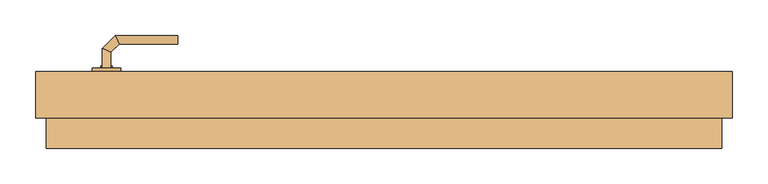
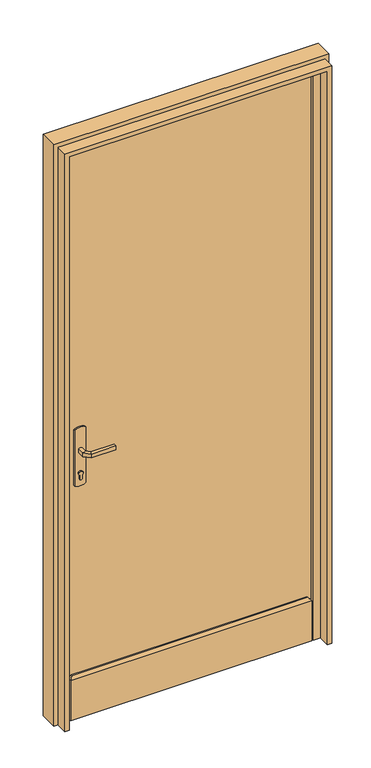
"""IFC4 building model written with IfcOpenShell, lengths in millimetres: door geometry, Entrée (avec angle d'ouverture) : PP Lisse (0.90 m x 2.15 m)."""

from ifc_helpers import new_model, si_unit, point, frame, frame_2d, origin, origin_with_axes, place, context, project, spatial, polyline, circle_curve, ellipse_curve, trimmed, segment, composite_curve, outline, extrude, faceted_brep, source, transform, mapped, element, save
from ifc_brep_helpers import plane_surface, cylinder_surface, advanced_brep


def door_d4e09bec(model_context):
    return source(origin(), model_context, "Body", "SolidModel", [
        extrude(outline(composite_curve([segment(trimmed(circle_curve(frame_2d((904.6410162, -400.0)), 40.0), [point((870.0, -420.0))], [point((870.0, -380.0))], False, "CARTESIAN"), True, "CONTINUOUS"), segment(polyline([(870.0, -380.0), (1080.0, -380.0)]), True, "CONTINUOUS"), segment(trimmed(circle_curve(frame_2d((1045.3589838, -400.0)), 40.0), [point((1080.0, -380.0))], [point((1080.0, -420.0))], False, "CARTESIAN"), True, "CONTINUOUS"), segment(polyline([(1080.0, -420.0), (870.0, -420.0)]), True, "CONTINUOUS")], self_intersect=False)), frame((0.0, 108.0, 0.0), z_axis=(0.0, 1.0, 0.0), x_axis=(0.0, 0.0, 1.0)), (0.0, 0.0, 1.0), 5.0),
        extrude(outline(composite_curve([segment(trimmed(circle_curve(frame_2d((1045.3589838, -400.0)), 40.0), [point((1080.0, -380.0))], [point((1080.0, -420.0))], False, "CARTESIAN"), True, "CONTINUOUS"), segment(polyline([(1080.0, -420.0), (870.0, -420.0)]), True, "CONTINUOUS"), segment(trimmed(circle_curve(frame_2d((904.6410162, -400.0)), 40.0), [point((870.0, -420.0))], [point((870.0, -380.0))], False, "CARTESIAN"), True, "CONTINUOUS"), segment(polyline([(870.0, -380.0), (1080.0, -380.0)]), True, "CONTINUOUS")], self_intersect=False)), frame((0.0, 53.0, 0.0), z_axis=(0.0, 1.0, 0.0), x_axis=(0.0, 0.0, 1.0)), (0.0, 0.0, 1.0), 5.0),
        advanced_brep(
        [(-406.0, 113.0, 1007.0), (-406.0, 113.0, 993.0), (-394.0, 113.0, 993.0), (-394.0, 113.0, 1007.0), (-394.0, 135.680388, 1007.0), (-406.0, 140.6509507, 1007.0), (-394.0, 135.680388, 993.0), (-406.0, 140.6509507, 993.0), (-382.6522273, 147.0281607, 1007.0), (-387.62279, 159.0281607, 1007.0), (-382.6522273, 147.0281607, 993.0), (-387.62279, 159.0281607, 993.0), (-299.9813594, 159.0281607, 1007.0), (-299.9813594, 147.0281607, 1007.0), (-299.9813594, 147.0281607, 993.0), (-299.9813594, 159.0281607, 993.0)],
        [
            (0, 1),
            (1, 2, circle_curve(frame((-400.0, 113.0, 1013.0457722), z_axis=(0.0, -1.0, 0.0), x_axis=(1.0, 0.0, 0.0)), 20.9244589)),
            (2, 3),
            (3, 0, circle_curve(frame((-400.0, 113.0, 986.9542278), z_axis=(0.0, -1.0, 0.0), x_axis=(1.0, 0.0, 0.0)), 20.9244589)),
            (3, 4),
            (4, 5, ellipse_curve(frame((-400.0, 138.1656693, 986.9542278), z_axis=(-0.3826834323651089, -0.9238795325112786, 0.0), x_axis=(0.9238795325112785, -0.3826834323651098, 0.0)), 22.6484711, 20.9244589)),
            (5, 0),
            (2, 6),
            (6, 4),
            (1, 7),
            (7, 6, ellipse_curve(frame((-400.0, 138.1656693, 1013.0457722), z_axis=(-0.3826834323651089, -0.9238795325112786, 0.0), x_axis=(0.9238795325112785, -0.3826834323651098, 0.0)), 22.6484711, 20.9244589)),
            (5, 7),
            (4, 8),
            (8, 9, ellipse_curve(frame((-385.1375087, 153.0281607, 986.9542278), z_axis=(-0.9238795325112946, -0.38268343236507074, 0.0), x_axis=(0.3826834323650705, -0.9238795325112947, 0.0)), 22.6484711, 20.9244589)),
            (9, 5),
            (6, 10),
            (10, 8),
            (7, 11),
            (11, 10, ellipse_curve(frame((-385.1375087, 153.0281607, 1013.0457722), z_axis=(-0.9238795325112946, -0.38268343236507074, 0.0), x_axis=(0.3826834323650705, -0.9238795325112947, 0.0)), 22.6484711, 20.9244589)),
            (9, 11),
            (12, 13, circle_curve(frame((-299.9813594, 153.0281607, 986.9542278), z_axis=(1.0, 0.0, 0.0), x_axis=(0.0, -1.0, 0.0)), 20.9244589)),
            (13, 14),
            (14, 15, circle_curve(frame((-299.9813594, 153.0281607, 1013.0457722), z_axis=(1.0, 0.0, 0.0), x_axis=(0.0, -1.0, 0.0)), 20.9244589)),
            (15, 12),
            (8, 13),
            (12, 9),
            (10, 14),
            (11, 15),
        ],
        [
            plane_surface(frame((-409.2195445, 113.0, 1000.0), z_axis=(0.0, -1.0, 0.0), x_axis=(0.0, 0.0, -1.0))),
            cylinder_surface(frame((-400.0, 113.0, 986.9542278), z_axis=(0.0, -1.0, 0.0), x_axis=(1.0, 0.0, 0.0)), 20.9244589),
            plane_surface(frame((-394.0, 113.0, 1007.0), z_axis=(1.0, 0.0, 0.0), x_axis=(0.0, 1.0, 0.0))),
            cylinder_surface(frame((-400.0, 113.0, 1013.0457722), z_axis=(0.0, -1.0, 0.0), x_axis=(1.0, 0.0, 0.0)), 20.9244589),
            plane_surface(frame((-406.0, 113.0, 993.0), z_axis=(-1.0, 0.0, 0.0), x_axis=(0.0, 1.0, 0.0))),
            cylinder_surface(frame((-400.0, 138.1656693, 986.9542278), z_axis=(-0.7071067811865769, -0.7071067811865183, 0.0), x_axis=(0.7071067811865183, -0.7071067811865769, 0.0)), 20.9244589),
            plane_surface(frame((-394.0, 135.680388, 1007.0), z_axis=(0.7071067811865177, -0.7071067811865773, 0.0), x_axis=(0.7071067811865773, 0.7071067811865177, 0.0))),
            cylinder_surface(frame((-400.0, 138.1656693, 1013.0457722), z_axis=(-0.7071067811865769, -0.7071067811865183, 0.0), x_axis=(0.7071067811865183, -0.7071067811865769, 0.0)), 20.9244589),
            plane_surface(frame((-406.0, 140.6509507, 993.0), z_axis=(-0.7071067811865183, 0.7071067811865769, 0.0), x_axis=(0.7071067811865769, 0.7071067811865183, 0.0))),
            plane_surface(frame((-299.9813594, 153.0281607, 990.7804555), z_axis=(1.0, 0.0, 0.0), x_axis=(0.0, -1.0, 0.0))),
            cylinder_surface(frame((-385.1375087, 153.0281607, 986.9542278), z_axis=(-1.0, 0.0, 0.0), x_axis=(0.0, -1.0, 0.0)), 20.9244589),
            plane_surface(frame((-382.6522273, 147.0281607, 1007.0), z_axis=(0.0, -1.0, 0.0), x_axis=(1.0, 0.0, 0.0))),
            cylinder_surface(frame((-385.1375087, 153.0281607, 1013.0457722), z_axis=(-1.0, 0.0, 0.0), x_axis=(0.0, -1.0, 0.0)), 20.9244589),
            plane_surface(frame((-387.62279, 159.0281607, 993.0), z_axis=(0.0, 1.0, 0.0), x_axis=(1.0, 0.0, 0.0))),
        ],
        [
            (0, [[1, 2, 3, 4]]),
            (1, [[5, 6, 7, -4]]),
            (2, [[8, 9, -5, -3]]),
            (3, [[10, 11, -8, -2]]),
            (4, [[-7, 12, -10, -1]]),
            (5, [[13, 14, 15, -6]]),
            (6, [[16, 17, -13, -9]]),
            (7, [[18, 19, -16, -11]]),
            (8, [[-15, 20, -18, -12]]),
            (9, [[21, 22, 23, 24]]),
            (10, [[25, -21, 26, -14]]),
            (11, [[27, -22, -25, -17]]),
            (12, [[28, -23, -27, -19]]),
            (13, [[-26, -24, -28, -20]]),
        ],
    ),
        advanced_brep(
        [(-394.0, 53.0, 993.0), (-406.0, 53.0, 993.0), (-406.0, 53.0, 1007.0), (-394.0, 53.0, 1007.0), (-394.0, 30.5147955, 1007.0), (-394.0, 30.5147955, 993.0), (-406.0, 25.5442327, 1007.0), (-406.0, 25.5442327, 993.0), (-382.5147186, 19.0295141, 1007.0), (-382.5147186, 19.0295141, 993.0), (-387.4852814, 7.0295141, 1007.0), (-387.4852814, 7.0295141, 993.0), (-299.9542164, 19.0295141, 993.0), (-299.9542164, 19.0295141, 1007.0), (-299.9542164, 7.0295141, 1007.0), (-299.9542164, 7.0295141, 993.0)],
        [
            (0, 1, circle_curve(frame((-400.0, 53.0, 1013.0457722), z_axis=(0.0, 1.0, 0.0), x_axis=(-1.0, 0.0, 0.0)), 20.9244589)),
            (1, 2),
            (2, 3, circle_curve(frame((-400.0, 53.0, 986.9542278), z_axis=(0.0, 1.0, 0.0), x_axis=(-1.0, 0.0, 0.0)), 20.9244589)),
            (3, 0),
            (3, 4),
            (4, 5),
            (5, 0),
            (2, 6),
            (6, 4, ellipse_curve(frame((-400.0, 28.0295141, 986.9542278), z_axis=(-0.3826834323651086, 0.923879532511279, 0.0), x_axis=(0.9238795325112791, 0.3826834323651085, 0.0)), 22.6484711, 20.9244589)),
            (1, 7),
            (7, 6),
            (5, 7, ellipse_curve(frame((-400.0, 28.0295141, 1013.0457722), z_axis=(-0.3826834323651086, 0.923879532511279, 0.0), x_axis=(0.9238795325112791, 0.3826834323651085, 0.0)), 22.6484711, 20.9244589)),
            (4, 8),
            (8, 9),
            (9, 5),
            (6, 10),
            (10, 8, ellipse_curve(frame((-385.0, 13.0295141, 986.9542278), z_axis=(-0.9238795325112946, 0.38268343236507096, 0.0), x_axis=(0.3826834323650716, 0.9238795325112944, 0.0)), 22.6484711, 20.9244589)),
            (7, 11),
            (11, 10),
            (9, 11, ellipse_curve(frame((-385.0, 13.0295141, 1013.0457722), z_axis=(-0.9238795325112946, 0.38268343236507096, 0.0), x_axis=(0.3826834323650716, 0.9238795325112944, 0.0)), 22.6484711, 20.9244589)),
            (12, 13),
            (13, 14, circle_curve(frame((-299.9542164, 13.0295141, 986.9542278), z_axis=(1.0, 0.0, 0.0), x_axis=(0.0, -1.0, 0.0)), 20.9244589)),
            (14, 15),
            (15, 12, circle_curve(frame((-299.9542164, 13.0295141, 1013.0457722), z_axis=(1.0, 0.0, 0.0), x_axis=(0.0, -1.0, 0.0)), 20.9244589)),
            (8, 13),
            (12, 9),
            (10, 14),
            (11, 15),
        ],
        [
            plane_surface(frame((-409.2195445, 53.0, 1000.0), z_axis=(0.0, 1.0, 0.0), x_axis=(0.0, 0.0, 1.0))),
            plane_surface(frame((-394.0, 53.0, 993.0), z_axis=(1.0, 0.0, 0.0), x_axis=(0.0, -1.0, 0.0))),
            cylinder_surface(frame((-400.0, 53.0, 986.9542278), z_axis=(0.0, 1.0, 0.0), x_axis=(-1.0, 0.0, 0.0)), 20.9244589),
            plane_surface(frame((-406.0, 53.0, 1007.0), z_axis=(-1.0, 0.0, 0.0), x_axis=(0.0, -1.0, 0.0))),
            cylinder_surface(frame((-400.0, 53.0, 1013.0457722), z_axis=(0.0, 1.0, 0.0), x_axis=(-1.0, 0.0, 0.0)), 20.9244589),
            plane_surface(frame((-394.0, 30.5147955, 993.0), z_axis=(0.7071067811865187, 0.7071067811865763, 0.0), x_axis=(0.7071067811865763, -0.7071067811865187, 0.0))),
            cylinder_surface(frame((-400.0, 28.0295141, 986.9542278), z_axis=(-0.7071067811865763, 0.7071067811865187, 0.0), x_axis=(-0.7071067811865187, -0.7071067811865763, 0.0)), 20.9244589),
            plane_surface(frame((-406.0, 25.5442327, 1007.0), z_axis=(-0.7071067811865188, -0.7071067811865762, 0.0), x_axis=(0.7071067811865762, -0.7071067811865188, 0.0))),
            cylinder_surface(frame((-400.0, 28.0295141, 1013.0457722), z_axis=(-0.7071067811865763, 0.7071067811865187, 0.0), x_axis=(-0.7071067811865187, -0.7071067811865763, 0.0)), 20.9244589),
            plane_surface(frame((-299.9542164, 13.0295141, 990.7804555), z_axis=(1.0, 0.0, 0.0), x_axis=(0.0, -1.0, 0.0))),
            plane_surface(frame((-382.5147186, 19.0295141, 993.0), z_axis=(0.0, 1.0, 0.0), x_axis=(1.0, 0.0, 0.0))),
            cylinder_surface(frame((-385.0, 13.0295141, 986.9542278), z_axis=(-1.0, 0.0, 0.0), x_axis=(0.0, -1.0, 0.0)), 20.9244589),
            plane_surface(frame((-387.4852814, 7.0295141, 1007.0), z_axis=(0.0, -1.0, 0.0), x_axis=(1.0, 0.0, 0.0))),
            cylinder_surface(frame((-385.0, 13.0295141, 1013.0457722), z_axis=(-1.0, 0.0, 0.0), x_axis=(0.0, -1.0, 0.0)), 20.9244589),
        ],
        [
            (0, [[1, 2, 3, 4]]),
            (1, [[5, 6, 7, -4]]),
            (2, [[8, 9, -5, -3]]),
            (3, [[10, 11, -8, -2]]),
            (4, [[-7, 12, -10, -1]]),
            (5, [[13, 14, 15, -6]]),
            (6, [[16, 17, -13, -9]]),
            (7, [[18, 19, -16, -11]]),
            (8, [[-15, 20, -18, -12]]),
            (9, [[21, 22, 23, 24]]),
            (10, [[25, -21, 26, -14]]),
            (11, [[27, -22, -25, -17]]),
            (12, [[28, -23, -27, -19]]),
            (13, [[-26, -24, -28, -20]]),
        ],
    ),
        extrude(outline(composite_curve([segment(polyline([(908.0464422, -405.0), (895.0, -405.0)]), True, "CONTINUOUS"), segment(trimmed(circle_curve(frame_2d((895.0, -400.0)), 5.0), [point((895.0, -405.0))], [point((895.0, -395.0))], False, "CARTESIAN"), True, "CONTINUOUS"), segment(polyline([(895.0, -395.0), (908.0464422, -395.0)]), True, "CONTINUOUS"), segment(trimmed(circle_curve(frame_2d((914.2914402, -400.0)), 8.0), [point((908.0464422, -395.0))], [point((908.0464422, -405.0))], False, "CARTESIAN"), True, "CONTINUOUS")], self_intersect=False)), frame((0.0, 113.0, 0.0), z_axis=(0.0, 1.0, 0.0), x_axis=(0.0, 0.0, 1.0)), (0.0, 0.0, 1.0), 3.0),
        extrude(outline(composite_curve([segment(polyline([(908.0464422, -405.0), (895.0, -405.0)]), True, "CONTINUOUS"), segment(trimmed(circle_curve(frame_2d((895.0, -400.0)), 5.0), [point((895.0, -405.0))], [point((895.0, -395.0))], False, "CARTESIAN"), True, "CONTINUOUS"), segment(polyline([(895.0, -395.0), (908.0464422, -395.0)]), True, "CONTINUOUS"), segment(trimmed(circle_curve(frame_2d((914.2914402, -400.0)), 8.0), [point((908.0464422, -395.0))], [point((908.0464422, -405.0))], False, "CARTESIAN"), True, "CONTINUOUS")], self_intersect=False)), frame((0.0, 48.0, 0.0), z_axis=(0.0, 1.0, 0.0), x_axis=(0.0, 0.0, 1.0)), (0.0, 0.0, 1.0), 5.0),
        extrude(outline(polyline([(440.0, 108.0), (440.0, 58.0), (-460.0, 58.0), (-460.0, 108.0), (440.0, 108.0)])), origin_with_axes(), (0.0, 0.0, 1.0), 2150.0),
        faceted_brep([(-440.0, 58.0, 0.0), (-440.0, 58.0, 150.0), (-430.0, 58.0, 160.0), (410.0, 58.0, 160.0), (420.0, 58.0, 150.0), (420.0, 58.0, 0.0), (420.0, 43.0, 0.0), (420.0, 43.0, 150.0), (-440.0, 43.0, 150.0), (-440.0, 43.0, 0.0), (-430.0, 53.0, 160.0), (410.0, 53.0, 160.0)], [[[0, 1, 2, 3, 4, 5]], [[6, 7, 8, 9]], [[9, 8, 1, 0]], [[5, 6, 9, 0]], [[5, 4, 7, 6]], [[2, 10, 11, 3]], [[7, 4, 3, 11]], [[11, 10, 8, 7]], [[10, 2, 1, 8]]]),
        faceted_brep([(-500.0, 43.0, 0.0), (-500.0, 108.0, 0.0), (-460.0, 108.0, 0.0), (-460.0, 58.0, 0.0), (-445.0, 58.0, 0.0), (-445.0, 43.0, 0.0), (-445.0, 43.0, 2135.0), (425.0, 43.0, 2135.0), (425.0, 43.0, 0.0), (480.0, 43.0, 0.0), (480.0, 43.0, 2190.0), (-500.0, 43.0, 2190.0), (-445.0, 58.0, 2135.0), (-460.0, 58.0, 2150.0), (440.0, 58.0, 2150.0), (440.0, 58.0, 0.0), (425.0, 58.0, 0.0), (425.0, 58.0, 2135.0), (-460.0, 108.0, 2150.0), (-500.0, 108.0, 2190.0), (480.0, 108.0, 2190.0), (480.0, 108.0, 0.0), (440.0, 108.0, 0.0), (440.0, 108.0, 2150.0)], [[[0, 1, 2, 3, 4, 5]], [[5, 6, 7, 8, 9, 10, 11, 0]], [[4, 12, 6, 5]], [[3, 13, 14, 15, 16, 17, 12, 4]], [[2, 18, 13, 3]], [[1, 19, 20, 21, 22, 23, 18, 2]], [[0, 11, 19, 1]], [[10, 9, 21, 20]], [[9, 8, 16, 15, 22, 21]], [[17, 16, 8, 7]], [[23, 22, 15, 14]], [[12, 17, 7, 6]], [[18, 23, 14, 13]], [[11, 10, 20, 19]]]),
        extrude(outline(polyline([(0.0, -470.0), (2160.0, -470.0), (2160.0, 450.0), (0.0, 450.0), (0.0, 465.0), (2175.0, 465.0), (2175.0, -485.0), (0.0, -485.0), (0.0, -470.0)])), frame((0.0, 0.0, 0.0), z_axis=(0.0, 1.0, 0.0), x_axis=(0.0, 0.0, 1.0)), (0.0, 0.0, 1.0), 43.0),
    ])


if __name__ == "__main__":
    model = new_model("IFC4")
    model_context = context("Model", 3, world=origin())
    ifc_project = project(units=[si_unit("LENGTHUNIT", "METRE", prefix="MILLI")], contexts=[model_context])
    site = spatial("IfcSite", under=ifc_project)
    building = spatial("IfcBuilding", under=site)
    placement = place(None, origin())
    door_shape = door_d4e09bec(model_context)
    element("IfcDoor", 1, ObjectType="Entrée (avec angle d'ouverture) : PP Lisse (0.90 m x 2.15 m)", at=placement, inside=building, context=model_context, shape_type="MappedRepresentation", body=[
        mapped(door_shape, transform((0.0, 0.0, 0.0), x_axis=(1.0, 0.0, 0.0), y_axis=(0.0, 1.0, 0.0), z_axis=(0.0, 0.0, 1.0))),
    ])
    save(model, "model.ifc")
